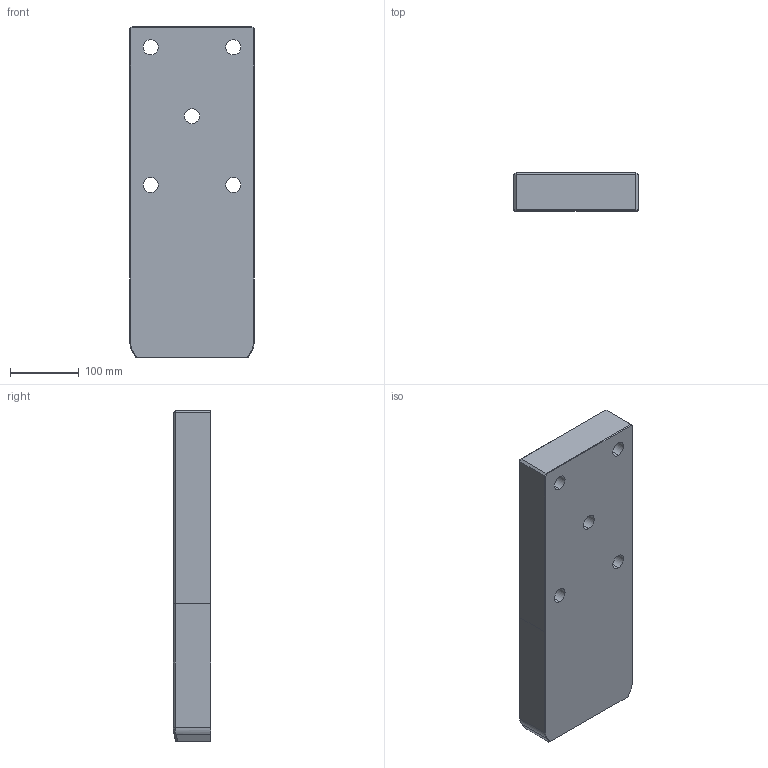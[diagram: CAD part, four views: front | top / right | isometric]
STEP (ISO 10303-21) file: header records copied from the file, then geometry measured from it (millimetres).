
FILE_DESCRIPTION((''),'2;1');
FILE_NAME('','2010-09-08T13:01:41+09:00',('misumi'),(''),'M/STEP i/f 1R2-14','CADmeister v5.1','');
FILE_SCHEMA(('AUTOMOTIVE_DESIGN'));
Length unit declared in the file: millimetre
Products named in the file (1): OGP180-480
Bounding box: 180 x 55 x 480 mm (x, y, z)
Volume: 4625343.7 mm3; surface area: 257210.8 mm2
Topology: 1 solids, 1 shells, 55 faces, 135 edges, 83 vertices
Faces by surface type: plane 32, cylinder 15, bspline 6, cone 2
Entity records: 1986 total; most frequent: CARTESIAN_POINT 611, ORIENTED_EDGE 260, DIRECTION 250, EDGE_CURVE 130, LINE 84, VECTOR 84, AXIS2_PLACEMENT_3D 83, VERTEX_POINT 78
